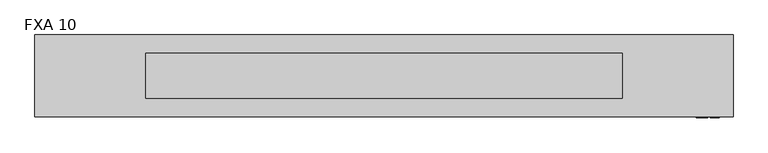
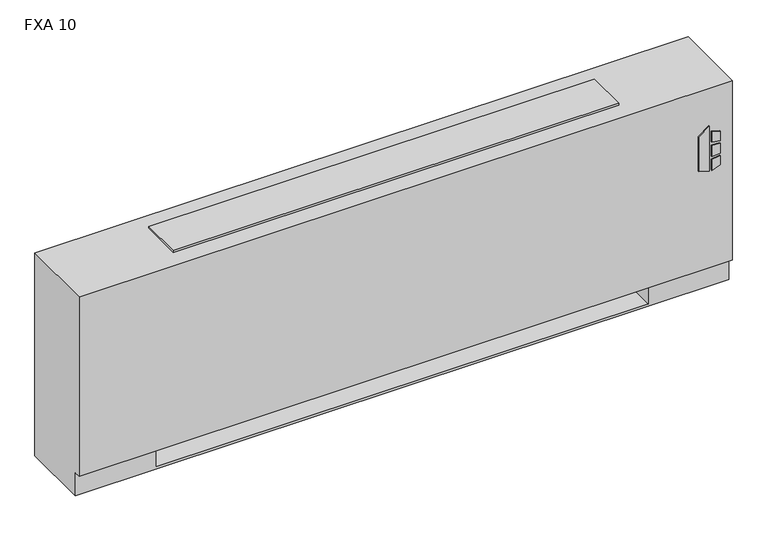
"""IFC4 building model written with IfcOpenShell, lengths in millimetres: proxy geometry, Vertical_Fan_Coil_Unit_-_FXA_-_IEC_-_2-Pipe_TS-FR_RH_2022 : FXA 10."""

from ifc_helpers import new_model, si_unit, point, frame, frame_2d, origin, place, context, project, spatial, polyline, circle_curve, trimmed, segment, composite_curve, outline, extrude, source, transform, mapped, element, save
from ifc_brep_helpers import plane_surface, revolved_surface, advanced_brep


def fxa_10_d59e50d3(model_context):
    return source(origin(), model_context, "Body", "SolidModel", [
        extrude(outline(polyline([(391.6086829, 1027.1868862), (381.6606126, 1059.3602728), (523.831537, 1059.3602728), (500.8095309, 1027.1868862), (391.6086829, 1027.1868862)])), frame((0.0, 12.7, 0.0), z_axis=(0.0, 1.0, 0.0), x_axis=(0.0, 0.0, 1.0)), (0.0, 0.0, 1.0), 3.175),
        extrude(outline(polyline([(470.6079683, 1066.1186058), (467.4055757, 1092.2), (496.6344168, 1092.2), (504.6988318, 1066.1186058), (470.6079683, 1066.1186058)])), frame((0.0, 12.7, 0.0), z_axis=(0.0, 1.0, 0.0), x_axis=(0.0, 0.0, 1.0)), (0.0, 0.0, 1.0), 3.175),
        extrude(outline(polyline([(418.7444414, 1092.2), (415.0789404, 1066.1186058), (381.6606126, 1066.1186058), (390.2948498, 1092.2), (418.7444414, 1092.2)])), frame((0.0, 12.7, 0.0), z_axis=(0.0, 1.0, 0.0), x_axis=(0.0, 0.0, 1.0)), (0.0, 0.0, 1.0), 3.175),
        extrude(outline(polyline([(458.0596028, 1092.2), (460.3414292, 1066.1186058), (424.4038806, 1066.1186058), (427.1451456, 1092.2), (458.0596028, 1092.2)])), frame((0.0, 12.7, 0.0), z_axis=(0.0, 1.0, 0.0), x_axis=(0.0, 0.0, 1.0)), (0.0, 0.0, 1.0), 3.175),
        extrude(outline(polyline([(-704.85, 81.534), (-704.85, 223.266), (-584.2, 223.266), (-584.2, 81.534), (-704.85, 81.534)])), frame((0.0, 0.0, 327.025), z_axis=(0.0, 0.0, 1.0), x_axis=(1.0, 0.0, 0.0)), (0.0, 0.0, 1.0), 260.35),
        extrude(outline(composite_curve([segment(trimmed(circle_curve(frame_2d((952.5, 130.175)), 9.525), [point((942.975, 130.175))], [point((962.025, 130.175))], False, "CARTESIAN"), True, "CONTINUOUS"), segment(trimmed(circle_curve(frame_2d((952.5, 130.175)), 9.525), [point((962.025, 130.175))], [point((942.975, 130.175))], False, "CARTESIAN"), True, "CONTINUOUS")], self_intersect=False)), frame((0.0, 0.0, 101.6), z_axis=(0.0, 0.0, 1.0), x_axis=(1.0, 0.0, 0.0)), (0.0, 0.0, 1.0), 25.4),
        extrude(outline(polyline([(1047.75, 196.85), (1047.75, 63.5), (889.0, 63.5), (889.0, 196.85), (1047.75, 196.85)])), frame((0.0, 0.0, 127.0), z_axis=(0.0, 0.0, 1.0), x_axis=(1.0, 0.0, 0.0)), (0.0, 0.0, 1.0), 50.8),
        extrude(outline(composite_curve([segment(trimmed(circle_curve(frame_2d((93.1926, 485.5972)), 7.9375), [point((93.1926, 493.5347))], [point((93.1926, 477.6597))], False, "CARTESIAN"), True, "CONTINUOUS"), segment(trimmed(circle_curve(frame_2d((93.1926, 485.5972)), 7.9375), [point((93.1926, 477.6597))], [point((93.1926, 493.5347))], False, "CARTESIAN"), True, "CONTINUOUS")], self_intersect=False)), frame((889.0, 0.0, 0.0), z_axis=(1.0, 0.0, 0.0), x_axis=(0.0, 1.0, 0.0)), (0.0, 0.0, 1.0), 50.8),
        extrude(outline(composite_curve([segment(trimmed(circle_curve(frame_2d((141.3002, 458.9526)), 7.9375), [point((141.3002, 466.8901))], [point((141.3002, 451.0151))], False, "CARTESIAN"), True, "CONTINUOUS"), segment(trimmed(circle_curve(frame_2d((141.3002, 458.9526)), 7.9375), [point((141.3002, 451.0151))], [point((141.3002, 466.8901))], False, "CARTESIAN"), True, "CONTINUOUS")], self_intersect=False)), frame((889.0, 0.0, 0.0), z_axis=(1.0, 0.0, 0.0), x_axis=(0.0, 1.0, 0.0)), (0.0, 0.0, 1.0), 50.8),
        advanced_brep(
        [(1130.3, 244.475, 641.35), (-825.5, 244.475, 641.35), (-825.5, 15.875, 641.35), (1130.3, 15.875, 641.35), (-825.5, 244.475, 0.0), (1130.3, 244.475, 0.0), (1130.3, 34.925, 0.0), (-825.5, 34.925, 0.0), (889.0, 244.475, 73.025), (1117.6, 244.475, 73.025), (1117.6, 244.475, 628.65), (889.0, 244.475, 628.65), (889.0, 244.475, 414.8650565), (917.575, 244.475, 414.8650565), (917.575, 244.475, 385.2349435), (889.0, 244.475, 385.2349435), (889.0, 244.475, 287.3375), (917.575, 244.475, 287.3375), (917.575, 244.475, 258.7625), (889.0, 244.475, 258.7625), (889.0, 244.475, 141.2875), (917.575, 244.475, 141.2875), (917.575, 244.475, 112.7125), (889.0, 244.475, 112.7125), (-584.2, 244.475, 628.65), (-812.8, 244.475, 628.65), (-812.8, 244.475, 73.025), (-584.2, 244.475, 73.025), (-584.2, 244.475, 112.7125), (-612.775, 244.475, 112.7125), (-612.775, 244.475, 141.2875), (-584.2, 244.475, 141.2875), (-584.2, 244.475, 258.7625), (-612.775, 244.475, 258.7625), (-612.775, 244.475, 287.3375), (-584.2, 244.475, 287.3375), (-584.2, 244.475, 385.2349435), (-612.775, 244.475, 385.2349435), (-612.775, 244.475, 414.8650565), (-584.2, 244.475, 414.8650565), (907.2626, 244.475, 127.0), (896.1374, 244.475, 127.0), (907.2626, 244.475, 400.05), (896.1374, 244.475, 400.05), (907.2626, 244.475, 273.05), (896.1374, 244.475, 273.05), (-591.3374, 244.475, 127.0), (-602.4626, 244.475, 127.0), (-591.3374, 244.475, 273.05), (-602.4626, 244.475, 273.05), (-591.3374, 244.475, 400.05), (-602.4626, 244.475, 400.05), (-825.5, 34.925, 73.025), (-825.5, 15.875, 73.025), (1130.3, 15.875, 73.025), (1130.3, 34.925, 73.025), (-584.2, 34.925, 73.025), (-584.2, 219.075, 73.025), (889.0, 219.075, 73.025), (889.0, 34.925, 73.025), (889.0, 34.925, 6.35), (-584.2, 34.925, 6.35), (889.0, 41.275, 628.65), (1117.6, 41.275, 628.65), (1117.6, 41.275, 73.025), (889.0, 41.275, 73.025), (-584.2, 41.275, 628.65), (-584.2, 41.275, 73.025), (-812.8, 41.275, 73.025), (-812.8, 41.275, 628.65), (889.0, 219.075, 73.025), (889.0, 238.125, 112.7125), (889.0, 238.125, 141.2875), (889.0, 238.125, 258.7625), (889.0, 238.125, 287.3375), (889.0, 238.125, 385.2349435), (889.0, 238.125, 414.8650565), (-584.2, 219.075, 73.025), (-584.2, 238.125, 414.8650565), (-584.2, 238.125, 385.2349435), (-584.2, 238.125, 287.3375), (-584.2, 238.125, 258.7625), (-584.2, 238.125, 141.2875), (-584.2, 238.125, 112.7125), (-584.2, 219.075, 6.35), (889.0, 219.075, 6.35), (917.575, 238.125, 112.7125), (917.575, 238.125, 141.2875), (896.1374, 238.125, 127.0), (907.2626, 238.125, 127.0), (917.575, 238.125, 258.7625), (917.575, 238.125, 287.3375), (896.1374, 238.125, 273.05), (907.2626, 238.125, 273.05), (917.575, 238.125, 385.2349435), (917.575, 238.125, 414.8650565), (896.1374, 238.125, 400.05), (907.2626, 238.125, 400.05), (-612.775, 238.125, 141.2875), (-612.775, 238.125, 112.7125), (-602.4626, 238.125, 127.0), (-591.3374, 238.125, 127.0), (-612.775, 238.125, 287.3375), (-612.775, 238.125, 258.7625), (-602.4626, 238.125, 273.05), (-591.3374, 238.125, 273.05), (-612.775, 238.125, 414.8650565), (-612.775, 238.125, 385.2349435), (-602.4626, 238.125, 400.05), (-591.3374, 238.125, 400.05)],
        [
            (0, 1),
            (1, 2),
            (2, 3),
            (3, 0),
            (4, 5),
            (5, 6),
            (6, 7),
            (7, 4),
            (0, 5),
            (4, 1),
            (8, 9),
            (9, 10),
            (10, 11),
            (11, 12),
            (12, 13),
            (13, 14),
            (14, 15),
            (15, 16),
            (16, 17),
            (17, 18),
            (18, 19),
            (19, 20),
            (20, 21),
            (21, 22),
            (22, 23),
            (23, 8),
            (24, 25),
            (25, 26),
            (26, 27),
            (27, 28),
            (28, 29),
            (29, 30),
            (30, 31),
            (31, 32),
            (32, 33),
            (33, 34),
            (34, 35),
            (35, 36),
            (36, 37),
            (37, 38),
            (38, 39),
            (39, 24),
            (40, 41, circle_curve(frame((901.7, 244.475, 127.0), z_axis=(0.0, -1.0, 0.0), x_axis=(-1.0, 0.0, 0.0)), 5.5626)),
            (41, 40, circle_curve(frame((901.7, 244.475, 127.0), z_axis=(0.0, -1.0, 0.0), x_axis=(-1.0, 0.0, 0.0)), 5.5626)),
            (42, 43, circle_curve(frame((901.7, 244.475, 400.05), z_axis=(0.0, -1.0, 0.0), x_axis=(-1.0, 0.0, 0.0)), 5.5626)),
            (43, 42, circle_curve(frame((901.7, 244.475, 400.05), z_axis=(0.0, -1.0, 0.0), x_axis=(-1.0, 0.0, 0.0)), 5.5626)),
            (44, 45, circle_curve(frame((901.7, 244.475, 273.05), z_axis=(0.0, -1.0, 0.0), x_axis=(-1.0, 0.0, 0.0)), 5.5626)),
            (45, 44, circle_curve(frame((901.7, 244.475, 273.05), z_axis=(0.0, -1.0, 0.0), x_axis=(-1.0, 0.0, 0.0)), 5.5626)),
            (46, 47, circle_curve(frame((-596.9, 244.475, 127.0), z_axis=(0.0, -1.0, 0.0), x_axis=(-1.0, 0.0, 0.0)), 5.5626)),
            (47, 46, circle_curve(frame((-596.9, 244.475, 127.0), z_axis=(0.0, -1.0, 0.0), x_axis=(-1.0, 0.0, 0.0)), 5.5626)),
            (48, 49, circle_curve(frame((-596.9, 244.475, 273.05), z_axis=(0.0, -1.0, 0.0), x_axis=(-1.0, 0.0, 0.0)), 5.5626)),
            (49, 48, circle_curve(frame((-596.9, 244.475, 273.05), z_axis=(0.0, -1.0, 0.0), x_axis=(-1.0, 0.0, 0.0)), 5.5626)),
            (50, 51, circle_curve(frame((-596.9, 244.475, 400.05), z_axis=(0.0, -1.0, 0.0), x_axis=(-1.0, 0.0, 0.0)), 5.5626)),
            (51, 50, circle_curve(frame((-596.9, 244.475, 400.05), z_axis=(0.0, -1.0, 0.0), x_axis=(-1.0, 0.0, 0.0)), 5.5626)),
            (7, 52),
            (52, 53),
            (53, 2),
            (53, 54),
            (54, 3),
            (54, 55),
            (55, 6),
            (52, 56),
            (56, 57),
            (57, 58),
            (58, 59),
            (59, 55),
            (59, 60),
            (60, 61),
            (61, 56),
            (62, 63),
            (63, 64),
            (64, 65),
            (65, 62),
            (66, 67),
            (67, 68),
            (68, 69),
            (69, 66),
            (65, 70),
            (70, 8),
            (23, 71),
            (71, 72),
            (72, 20),
            (19, 73),
            (73, 74),
            (74, 16),
            (15, 75),
            (75, 76),
            (76, 12),
            (11, 62),
            (64, 9),
            (63, 10),
            (69, 25),
            (24, 66),
            (68, 26),
            (67, 77),
            (77, 27),
            (39, 78),
            (78, 79),
            (79, 36),
            (35, 80),
            (80, 81),
            (81, 32),
            (31, 82),
            (82, 83),
            (83, 28),
            (57, 84),
            (84, 85),
            (85, 58),
            (85, 60),
            (84, 61),
            (71, 86),
            (86, 87),
            (87, 72),
            (88, 89, circle_curve(frame((901.7, 238.125, 127.0), z_axis=(0.0, 1.0, 0.0), x_axis=(-1.0, 0.0, 0.0)), 5.5626)),
            (89, 88, circle_curve(frame((901.7, 238.125, 127.0), z_axis=(0.0, 1.0, 0.0), x_axis=(-1.0, 0.0, 0.0)), 5.5626)),
            (73, 90),
            (90, 91),
            (91, 74),
            (92, 93, circle_curve(frame((901.7, 238.125, 273.05), z_axis=(0.0, 1.0, 0.0), x_axis=(-1.0, 0.0, 0.0)), 5.5626)),
            (93, 92, circle_curve(frame((901.7, 238.125, 273.05), z_axis=(0.0, 1.0, 0.0), x_axis=(-1.0, 0.0, 0.0)), 5.5626)),
            (75, 94),
            (94, 95),
            (95, 76),
            (96, 97, circle_curve(frame((901.7, 238.125, 400.05), z_axis=(0.0, 1.0, 0.0), x_axis=(-1.0, 0.0, 0.0)), 5.5626)),
            (97, 96, circle_curve(frame((901.7, 238.125, 400.05), z_axis=(0.0, 1.0, 0.0), x_axis=(-1.0, 0.0, 0.0)), 5.5626)),
            (98, 99),
            (99, 83),
            (82, 98),
            (100, 101, circle_curve(frame((-596.9, 238.125, 127.0), z_axis=(0.0, 1.0, 0.0), x_axis=(-1.0, 0.0, 0.0)), 5.5626)),
            (101, 100, circle_curve(frame((-596.9, 238.125, 127.0), z_axis=(0.0, 1.0, 0.0), x_axis=(-1.0, 0.0, 0.0)), 5.5626)),
            (102, 103),
            (103, 81),
            (80, 102),
            (104, 105, circle_curve(frame((-596.9, 238.125, 273.05), z_axis=(0.0, 1.0, 0.0), x_axis=(-1.0, 0.0, 0.0)), 5.5626)),
            (105, 104, circle_curve(frame((-596.9, 238.125, 273.05), z_axis=(0.0, 1.0, 0.0), x_axis=(-1.0, 0.0, 0.0)), 5.5626)),
            (106, 107),
            (107, 79),
            (78, 106),
            (108, 109, circle_curve(frame((-596.9, 238.125, 400.05), z_axis=(0.0, 1.0, 0.0), x_axis=(-1.0, 0.0, 0.0)), 5.5626)),
            (109, 108, circle_curve(frame((-596.9, 238.125, 400.05), z_axis=(0.0, 1.0, 0.0), x_axis=(-1.0, 0.0, 0.0)), 5.5626)),
            (87, 21),
            (86, 22),
            (91, 17),
            (90, 18),
            (95, 13),
            (94, 14),
            (30, 98),
            (99, 29),
            (34, 102),
            (103, 33),
            (38, 106),
            (107, 37),
            (88, 41),
            (40, 89),
            (96, 43),
            (42, 97),
            (92, 45),
            (44, 93),
            (100, 47),
            (46, 101),
            (104, 49),
            (48, 105),
            (108, 51),
            (50, 109),
        ],
        [
            plane_surface(frame((-825.5, 244.475, 641.35), z_axis=(0.0, 0.0, 1.0), x_axis=(-1.0, 0.0, 0.0))),
            plane_surface(frame((-825.5, 244.475, 0.0), z_axis=(0.0, 0.0, -1.0), x_axis=(1.0, 0.0, 0.0))),
            plane_surface(frame((1130.3, 244.475, 641.35), z_axis=(0.0, 1.0, 0.0), x_axis=(0.0, 0.0, -1.0))),
            plane_surface(frame((-825.5, 244.475, 641.35), z_axis=(-1.0, 0.0, 0.0), x_axis=(0.0, 0.0, -1.0))),
            plane_surface(frame((-825.5, 15.875, 641.35), z_axis=(0.0, -1.0, 0.0), x_axis=(0.0, 0.0, -1.0))),
            plane_surface(frame((1130.3, 15.875, 641.35), z_axis=(1.0, 0.0, 0.0), x_axis=(0.0, 0.0, -1.0))),
            plane_surface(frame((-825.5, 15.875, 73.025), z_axis=(0.0, 0.0, -1.0), x_axis=(1.0, 0.0, 0.0))),
            plane_surface(frame((-825.5, 34.925, 73.025), z_axis=(0.0, -1.0, 0.0), x_axis=(1.0, 0.0, 0.0))),
            plane_surface(frame((889.0, 41.275, 628.65), z_axis=(0.0, 1.0, 0.0), x_axis=(0.0, 0.0, -1.0))),
            plane_surface(frame((889.0, 41.275, 628.65), z_axis=(1.0, 0.0, 0.0), x_axis=(0.0, 1.0, 0.0))),
            plane_surface(frame((889.0, 41.275, 73.025), z_axis=(0.0, 0.0, 1.0), x_axis=(0.0, 1.0, 0.0))),
            plane_surface(frame((1117.6, 41.275, 73.025), z_axis=(-1.0, 0.0, 0.0), x_axis=(0.0, 1.0, 0.0))),
            plane_surface(frame((1117.6, 41.275, 628.65), z_axis=(0.0, 0.0, -1.0), x_axis=(0.0, 1.0, 0.0))),
            plane_surface(frame((-584.2, 41.275, 628.65), z_axis=(0.0, 0.0, -1.0), x_axis=(0.0, 1.0, 0.0))),
            plane_surface(frame((-812.8, 41.275, 628.65), z_axis=(1.0, 0.0, 0.0), x_axis=(0.0, 1.0, 0.0))),
            plane_surface(frame((-812.8, 41.275, 73.025), z_axis=(0.0, 0.0, 1.0), x_axis=(0.0, 1.0, 0.0))),
            plane_surface(frame((-584.2, 41.275, 73.025), z_axis=(-1.0, 0.0, 0.0), x_axis=(0.0, 1.0, 0.0))),
            plane_surface(frame((889.0, 219.075, 73.025), z_axis=(0.0, -1.0, 0.0), x_axis=(0.0, 0.0, -1.0))),
            plane_surface(frame((889.0, 219.075, 73.025), z_axis=(-1.0, 0.0, 0.0), x_axis=(0.0, -1.0, 0.0))),
            plane_surface(frame((889.0, 219.075, 6.35), z_axis=(0.0, 0.0, 1.0), x_axis=(0.0, -1.0, 0.0))),
            plane_surface(frame((-584.2, 219.075, 6.35), z_axis=(1.0, 0.0, 0.0), x_axis=(0.0, -1.0, 0.0))),
            plane_surface(frame((917.575, 238.125, 141.2875), z_axis=(0.0, -1.0, 0.0), x_axis=(-1.0, 0.0, 0.0))),
            plane_surface(frame((889.0, 244.475, 141.2875), z_axis=(0.0, 0.0, 1.0), x_axis=(0.0, -1.0, 0.0))),
            plane_surface(frame((917.575, 244.475, 141.2875), z_axis=(1.0, 0.0, 0.0), x_axis=(0.0, -1.0, 0.0))),
            plane_surface(frame((917.575, 244.475, 112.7125), z_axis=(0.0, 0.0, -1.0), x_axis=(0.0, -1.0, 0.0))),
            plane_surface(frame((889.0, 244.475, 287.3375), z_axis=(0.0, 0.0, 1.0), x_axis=(0.0, -1.0, 0.0))),
            plane_surface(frame((917.575, 244.475, 287.3375), z_axis=(1.0, 0.0, 0.0), x_axis=(0.0, -1.0, 0.0))),
            plane_surface(frame((917.575, 244.475, 258.7625), z_axis=(0.0, 0.0, -1.0), x_axis=(0.0, -1.0, 0.0))),
            plane_surface(frame((889.0, 244.475, 414.8650565), z_axis=(0.0, 0.0, 1.0), x_axis=(0.0, -1.0, 0.0))),
            plane_surface(frame((917.575, 244.475, 414.8650565), z_axis=(1.0, 0.0, 0.0), x_axis=(0.0, -1.0, 0.0))),
            plane_surface(frame((917.575, 244.475, 385.2349435), z_axis=(0.0, 0.0, -1.0), x_axis=(0.0, -1.0, 0.0))),
            plane_surface(frame((-612.775, 244.475, 141.2875), z_axis=(0.0, 0.0, 1.0), x_axis=(0.0, -1.0, 0.0))),
            plane_surface(frame((-584.2, 244.475, 112.7125), z_axis=(0.0, 0.0, -1.0), x_axis=(0.0, -1.0, 0.0))),
            plane_surface(frame((-612.775, 244.475, 112.7125), z_axis=(-1.0, 0.0, 0.0), x_axis=(0.0, -1.0, 0.0))),
            plane_surface(frame((-612.775, 244.475, 287.3375), z_axis=(0.0, 0.0, 1.0), x_axis=(0.0, -1.0, 0.0))),
            plane_surface(frame((-584.2, 244.475, 258.7625), z_axis=(0.0, 0.0, -1.0), x_axis=(0.0, -1.0, 0.0))),
            plane_surface(frame((-612.775, 244.475, 258.7625), z_axis=(-1.0, 0.0, 0.0), x_axis=(0.0, -1.0, 0.0))),
            plane_surface(frame((-612.775, 244.475, 414.8650565), z_axis=(0.0, 0.0, 1.0), x_axis=(0.0, -1.0, 0.0))),
            plane_surface(frame((-584.2, 244.475, 385.2349435), z_axis=(0.0, 0.0, -1.0), x_axis=(0.0, -1.0, 0.0))),
            plane_surface(frame((-612.775, 244.475, 385.2349435), z_axis=(-1.0, 0.0, 0.0), x_axis=(0.0, -1.0, 0.0))),
            revolved_surface(polyline([(896.1374000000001, 238.125, 127.0), (896.1374000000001, 244.475, 127.0)]), (901.7, 244.475, 127.0), (0.0, -1.0, 0.0)),
            revolved_surface(polyline([(896.1374000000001, 238.125, 400.05), (896.1374000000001, 244.475, 400.05)]), (901.7, 244.475, 400.05), (0.0, -1.0, 0.0)),
            revolved_surface(polyline([(896.1374000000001, 238.125, 273.05), (896.1374000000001, 244.475, 273.05)]), (901.7, 244.475, 273.05), (0.0, -1.0, 0.0)),
            revolved_surface(polyline([(-602.4626, 238.125, 127.0), (-602.4626, 244.475, 127.0)]), (-596.9, 244.475, 127.0), (0.0, -1.0, 0.0)),
            revolved_surface(polyline([(-602.4626, 238.125, 273.05), (-602.4626, 244.475, 273.05)]), (-596.9, 244.475, 273.05), (0.0, -1.0, 0.0)),
            revolved_surface(polyline([(-602.4626, 238.125, 400.05), (-602.4626, 244.475, 400.05)]), (-596.9, 244.475, 400.05), (0.0, -1.0, 0.0)),
        ],
        [
            (0, [[1, 2, 3, 4]]),
            (1, [[5, 6, 7, 8]]),
            (2, [[-1, 9, -5, 10], [11, 12, 13, 14, 15, 16, 17, 18, 19, 20, 21, 22, 23, 24, 25, 26], [27, 28, 29, 30, 31, 32, 33, 34, 35, 36, 37, 38, 39, 40, 41, 42], [43, 44], [45, 46], [47, 48], [49, 50], [51, 52], [53, 54]]),
            (3, [[-2, -10, -8, 55, 56, 57]]),
            (4, [[-3, -57, 58, 59]]),
            (5, [[-4, -59, 60, 61, -6, -9]]),
            (6, [[-56, 62, 63, 64, 65, 66, -60, -58]]),
            (7, [[-7, -61, -66, 67, 68, 69, -62, -55]]),
            (8, [[70, 71, 72, 73]]),
            (8, [[74, 75, 76, 77]]),
            (9, [[-73, 78, 79, -26, 80, 81, 82, -22, 83, 84, 85, -18, 86, 87, 88, -14, 89]]),
            (10, [[-72, 90, -11, -79, -78]]),
            (11, [[-71, 91, -12, -90]]),
            (12, [[-70, -89, -13, -91]]),
            (13, [[-77, 92, -27, 93]]),
            (14, [[-76, 94, -28, -92]]),
            (15, [[-75, 95, 96, -29, -94]]),
            (16, [[-74, -93, -42, 97, 98, 99, -38, 100, 101, 102, -34, 103, 104, 105, -30, -96, -95]]),
            (17, [[-64, 106, 107, 108]]),
            (18, [[-108, 109, -67, -65]]),
            (19, [[-107, 110, -68, -109]]),
            (20, [[-106, -63, -69, -110]]),
            (21, [[111, 112, 113, -81], [114, 115]]),
            (21, [[116, 117, 118, -84], [119, 120]]),
            (21, [[121, 122, 123, -87], [124, 125]]),
            (21, [[126, 127, -104, 128], [129, 130]]),
            (21, [[131, 132, -101, 133], [134, 135]]),
            (21, [[136, 137, -98, 138], [139, 140]]),
            (22, [[-113, 141, -23, -82]]),
            (23, [[-112, 142, -24, -141]]),
            (24, [[-111, -80, -25, -142]]),
            (25, [[-118, 143, -19, -85]]),
            (26, [[-117, 144, -20, -143]]),
            (27, [[-116, -83, -21, -144]]),
            (28, [[-123, 145, -15, -88]]),
            (29, [[-122, 146, -16, -145]]),
            (30, [[-121, -86, -17, -146]]),
            (31, [[-128, -103, -33, 147]]),
            (32, [[-127, 148, -31, -105]]),
            (33, [[-126, -147, -32, -148]]),
            (34, [[-133, -100, -37, 149]]),
            (35, [[-132, 150, -35, -102]]),
            (36, [[-131, -149, -36, -150]]),
            (37, [[-138, -97, -41, 151]]),
            (38, [[-137, 152, -39, -99]]),
            (39, [[-136, -151, -40, -152]]),
            (40, [[153, -43, 154, -114]]),
            (40, [[-153, -115, -154, -44]]),
            (41, [[155, -45, 156, -124]]),
            (41, [[-155, -125, -156, -46]]),
            (42, [[157, -47, 158, -119]]),
            (42, [[-157, -120, -158, -48]]),
            (43, [[159, -49, 160, -129]]),
            (43, [[-159, -130, -160, -50]]),
            (44, [[161, -51, 162, -134]]),
            (44, [[-161, -135, -162, -52]]),
            (45, [[163, -53, 164, -139]]),
            (45, [[-163, -140, -164, -54]]),
        ],
    ),
        extrude(outline(polyline([(819.15, 193.675), (819.15, 66.675), (-514.35, 66.675), (-514.35, 193.675), (819.15, 193.675)])), frame((0.0, 0.0, 641.35), z_axis=(0.0, 0.0, 1.0), x_axis=(1.0, 0.0, 0.0)), (0.0, 0.0, 1.0), 6.35),
    ])


if __name__ == "__main__":
    model = new_model("IFC4")
    model_context = context("Model", 3, world=origin())
    ifc_project = project(units=[si_unit("LENGTHUNIT", "METRE", prefix="MILLI")], contexts=[model_context])
    site = spatial("IfcSite", under=ifc_project)
    building = spatial("IfcBuilding", under=site)
    placement = place(None, origin())
    fxa_10_shape = fxa_10_d59e50d3(model_context)
    element("IfcBuildingElementProxy", 1, Name="Vertical_Fan_Coil_Unit_-_FXA_-_IEC_-_2-Pipe_TS-FR_RH_2022 : FXA 10", ObjectType="Vertical_Fan_Coil_Unit_-_FXA_-_IEC_-_2-Pipe_TS-FR_RH_2022 : FXA 10", at=placement, inside=building, context=model_context, shape_type="MappedRepresentation", body=[
        mapped(fxa_10_shape, transform((0.0, 0.0, 0.0), x_axis=(1.0, 0.0, 0.0), y_axis=(0.0, 1.0, 0.0), z_axis=(0.0, 0.0, 1.0))),
    ])
    save(model, "model.ifc")
